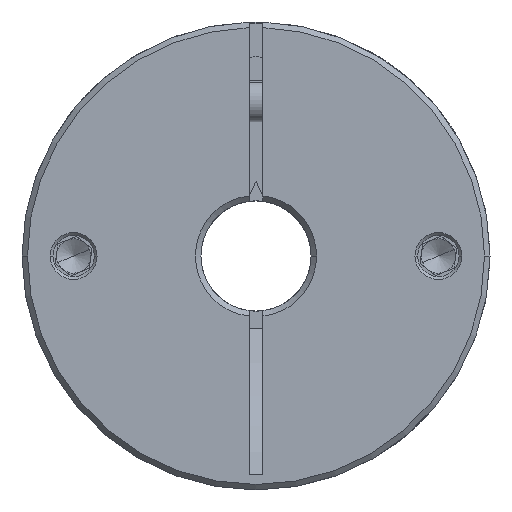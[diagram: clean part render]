
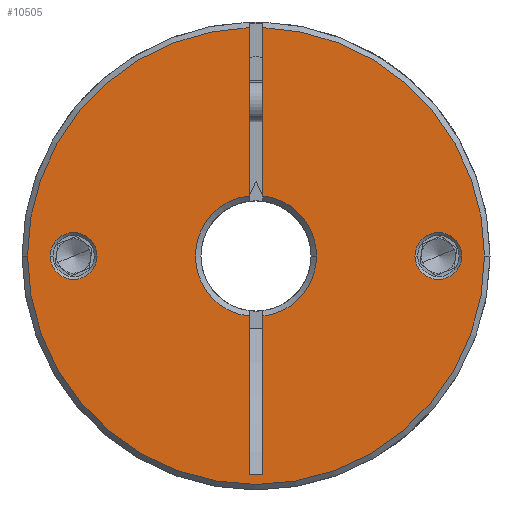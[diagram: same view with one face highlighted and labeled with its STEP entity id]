
A CAD part, front view. The second image highlights one B-rep face of the part: STEP entity #10505.
In plain terms, the highlighted planar face has unit normal (0, -1, 0).
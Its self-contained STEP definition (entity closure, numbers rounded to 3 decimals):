
#14 = AXIS2_PLACEMENT_3D ( 'NONE', #12225, #5910, #13285 ) ;
#80 = CARTESIAN_POINT ( 'NONE',  ( -1.735, -47.045, 59.257 ) ) ;
#179 = ORIENTED_EDGE ( 'NONE', *, *, #10323, .T. ) ;
#305 = CIRCLE ( 'NONE', #10318, 3.4 ) ;
#339 = CARTESIAN_POINT ( 'NONE',  ( -3.735, -47.045, 101.185 ) ) ;
#369 = DIRECTION ( 'NONE',  ( 0., 1., 0. ) ) ;
#387 = CIRCLE ( 'NONE', #5090, 3.4 ) ;
#778 = ORIENTED_EDGE ( 'NONE', *, *, #12845, .T. ) ;
#816 = DIRECTION ( 'NONE',  ( 0., 1., 0. ) ) ;
#1139 = DIRECTION ( 'NONE',  ( 0., 0., -1. ) ) ;
#1265 = DIRECTION ( 'NONE',  ( 1., 0., 0. ) ) ;
#1324 = DIRECTION ( 'NONE',  ( 0., 0., -1. ) ) ;
#1339 = CARTESIAN_POINT ( 'NONE',  ( -32.635, -47.045, 68. ) ) ;
#1504 = ORIENTED_EDGE ( 'NONE', *, *, #1598, .T. ) ;
#1598 = EDGE_CURVE ( 'NONE', #8237, #1993, #305, .T. ) ;
#1675 = ORIENTED_EDGE ( 'NONE', *, *, #4416, .T. ) ;
#1677 = EDGE_CURVE ( 'NONE', #11740, #6141, #4381, .T. ) ;
#1691 = AXIS2_PLACEMENT_3D ( 'NONE', #4876, #6055, #12374 ) ;
#1759 = CARTESIAN_POINT ( 'NONE',  ( -25.835, -47.045, 68. ) ) ;
#1760 = VECTOR ( 'NONE', #1324, 1000. ) ;
#1956 = VERTEX_POINT ( 'NONE', #1339 ) ;
#1993 = VERTEX_POINT ( 'NONE', #7713 ) ;
#2122 = DIRECTION ( 'NONE',  ( 1., 0., 0. ) ) ;
#2148 = VERTEX_POINT ( 'NONE', #3791 ) ;
#2162 = DIRECTION ( 'NONE',  ( 0., 1., 0. ) ) ;
#2203 = EDGE_CURVE ( 'NONE', #3881, #10103, #3032, .T. ) ;
#2260 = CARTESIAN_POINT ( 'NONE',  ( -1.735, -47.045, 36.279 ) ) ;
#2347 = LINE ( 'NONE', #9670, #8931 ) ;
#2429 = FACE_BOUND ( 'NONE', #4662, .T. ) ;
#2606 = ORIENTED_EDGE ( 'NONE', *, *, #7503, .T. ) ;
#2659 = ORIENTED_EDGE ( 'NONE', *, *, #12879, .T. ) ;
#2715 = CARTESIAN_POINT ( 'NONE',  ( -29.235, -47.045, 68. ) ) ;
#2909 = FACE_BOUND ( 'NONE', #5673, .T. ) ;
#2938 = CARTESIAN_POINT ( 'NONE',  ( 27.165, -47.045, 68. ) ) ;
#2941 = DIRECTION ( 'NONE',  ( 1., 0., 0. ) ) ;
#3032 = LINE ( 'NONE', #8317, #10956 ) ;
#3039 = CARTESIAN_POINT ( 'NONE',  ( -2.735, -47.045, 68. ) ) ;
#3065 = AXIS2_PLACEMENT_3D ( 'NONE', #9294, #12195, #1265 ) ;
#3320 = CARTESIAN_POINT ( 'NONE',  ( -1.735, -47.045, 68. ) ) ;
#3791 = CARTESIAN_POINT ( 'NONE',  ( -3.735, -47.045, 59.257 ) ) ;
#3881 = VERTEX_POINT ( 'NONE', #339 ) ;
#4131 = CIRCLE ( 'NONE', #10060, 8.8 ) ;
#4133 = ORIENTED_EDGE ( 'NONE', *, *, #13395, .T. ) ;
#4236 = VERTEX_POINT ( 'NONE', #10428 ) ;
#4381 = LINE ( 'NONE', #5569, #1760 ) ;
#4416 = EDGE_CURVE ( 'NONE', #6141, #6952, #12889, .T. ) ;
#4474 = VERTEX_POINT ( 'NONE', #11555 ) ;
#4662 = EDGE_LOOP ( 'NONE', ( #1504, #11595 ) ) ;
#4787 = DIRECTION ( 'NONE',  ( 0., 1., 0. ) ) ;
#4876 = CARTESIAN_POINT ( 'NONE',  ( -29.235, -47.045, 68. ) ) ;
#4899 = VERTEX_POINT ( 'NONE', #6518 ) ;
#4935 = EDGE_CURVE ( 'NONE', #2148, #6952, #2347, .T. ) ;
#5090 = AXIS2_PLACEMENT_3D ( 'NONE', #11051, #4787, #6879 ) ;
#5178 = DIRECTION ( 'NONE',  ( 0., 1., 0. ) ) ;
#5289 = LINE ( 'NONE', #3320, #7237 ) ;
#5423 = ORIENTED_EDGE ( 'NONE', *, *, #10250, .T. ) ;
#5432 = ORIENTED_EDGE ( 'NONE', *, *, #5657, .T. ) ;
#5492 = CARTESIAN_POINT ( 'NONE',  ( -2.735, -47.045, 68. ) ) ;
#5569 = CARTESIAN_POINT ( 'NONE',  ( -1.735, -47.045, 68. ) ) ;
#5586 = EDGE_CURVE ( 'NONE', #8063, #1956, #13530, .T. ) ;
#5657 = EDGE_CURVE ( 'NONE', #2148, #10103, #11552, .T. ) ;
#5673 = EDGE_LOOP ( 'NONE', ( #11783, #4133 ) ) ;
#5725 = ORIENTED_EDGE ( 'NONE', *, *, #4935, .F. ) ;
#5835 = DIRECTION ( 'NONE',  ( 0., 1., 0. ) ) ;
#5910 = DIRECTION ( 'NONE',  ( 0., -1., 0. ) ) ;
#5951 = DIRECTION ( 'NONE',  ( 0., -1., 0. ) ) ;
#6055 = DIRECTION ( 'NONE',  ( 0., 1., 0. ) ) ;
#6141 = VERTEX_POINT ( 'NONE', #2260 ) ;
#6162 = AXIS2_PLACEMENT_3D ( 'NONE', #9273, #816, #2941 ) ;
#6215 = DIRECTION ( 'NONE',  ( 1., 0., 0. ) ) ;
#6271 = AXIS2_PLACEMENT_3D ( 'NONE', #11501, #5178, #6215 ) ;
#6287 = DIRECTION ( 'NONE',  ( 0., -1., 0. ) ) ;
#6518 = CARTESIAN_POINT ( 'NONE',  ( -1.735, -47.045, 76.743 ) ) ;
#6618 = EDGE_CURVE ( 'NONE', #1993, #8237, #387, .T. ) ;
#6879 = DIRECTION ( 'NONE',  ( 1., 0., 0. ) ) ;
#6952 = VERTEX_POINT ( 'NONE', #9612 ) ;
#7237 = VECTOR ( 'NONE', #10702, 1000. ) ;
#7289 = EDGE_LOOP ( 'NONE', ( #12422, #11382, #5423, #179, #2659, #778, #2606, #11180, #1675, #5725, #5432 ) ) ;
#7320 = PLANE ( 'NONE',  #12282 ) ;
#7341 = DIRECTION ( 'NONE',  ( 1., 0., 0. ) ) ;
#7503 = EDGE_CURVE ( 'NONE', #4474, #11740, #4131, .T. ) ;
#7616 = AXIS2_PLACEMENT_3D ( 'NONE', #2715, #5835, #10149 ) ;
#7713 = CARTESIAN_POINT ( 'NONE',  ( 20.365, -47.045, 68. ) ) ;
#8063 = VERTEX_POINT ( 'NONE', #1759 ) ;
#8237 = VERTEX_POINT ( 'NONE', #2938 ) ;
#8306 = CIRCLE ( 'NONE', #6271, 8.8 ) ;
#8317 = CARTESIAN_POINT ( 'NONE',  ( -3.735, -47.045, 68. ) ) ;
#8360 = CARTESIAN_POINT ( 'NONE',  ( 23.765, -47.045, 68. ) ) ;
#8556 = AXIS2_PLACEMENT_3D ( 'NONE', #12448, #5951, #7341 ) ;
#8931 = VECTOR ( 'NONE', #1139, 1000. ) ;
#9078 = CARTESIAN_POINT ( 'NONE',  ( -1.735, -47.045, 101.185 ) ) ;
#9273 = CARTESIAN_POINT ( 'NONE',  ( -2.735, -47.045, 68. ) ) ;
#9294 = CARTESIAN_POINT ( 'NONE',  ( -2.735, -47.045, 68. ) ) ;
#9604 = VECTOR ( 'NONE', #13438, 1000. ) ;
#9612 = CARTESIAN_POINT ( 'NONE',  ( -3.735, -47.045, 36.279 ) ) ;
#9670 = CARTESIAN_POINT ( 'NONE',  ( -3.735, -47.045, 68. ) ) ;
#9777 = DIRECTION ( 'NONE',  ( 1., 0., 0. ) ) ;
#9815 = EDGE_CURVE ( 'NONE', #3881, #4236, #11150, .T. ) ;
#10027 = CARTESIAN_POINT ( 'NONE',  ( -3.735, -47.045, 76.743 ) ) ;
#10031 = CARTESIAN_POINT ( 'NONE',  ( -3.735, -47.045, 36.279 ) ) ;
#10060 = AXIS2_PLACEMENT_3D ( 'NONE', #5492, #369, #9777 ) ;
#10103 = VERTEX_POINT ( 'NONE', #10027 ) ;
#10149 = DIRECTION ( 'NONE',  ( 1., 0., 0. ) ) ;
#10250 = EDGE_CURVE ( 'NONE', #4236, #11843, #11153, .T. ) ;
#10318 = AXIS2_PLACEMENT_3D ( 'NONE', #8360, #2162, #2122 ) ;
#10323 = EDGE_CURVE ( 'NONE', #11843, #11485, #10829, .T. ) ;
#10329 = DIRECTION ( 'NONE',  ( 1., 0., 0. ) ) ;
#10428 = CARTESIAN_POINT ( 'NONE',  ( -35.935, -47.045, 68. ) ) ;
#10505 = ADVANCED_FACE ( 'NONE', ( #2429, #2909, #11499 ), #7320, .T. ) ;
#10702 = DIRECTION ( 'NONE',  ( 0., 0., -1. ) ) ;
#10829 = CIRCLE ( 'NONE', #8556, 33.2 ) ;
#10956 = VECTOR ( 'NONE', #12401, 1000. ) ;
#11051 = CARTESIAN_POINT ( 'NONE',  ( 23.765, -47.045, 68. ) ) ;
#11150 = CIRCLE ( 'NONE', #14, 33.2 ) ;
#11153 = CIRCLE ( 'NONE', #3065, 33.2 ) ;
#11180 = ORIENTED_EDGE ( 'NONE', *, *, #1677, .T. ) ;
#11382 = ORIENTED_EDGE ( 'NONE', *, *, #9815, .T. ) ;
#11485 = VERTEX_POINT ( 'NONE', #9078 ) ;
#11499 = FACE_OUTER_BOUND ( 'NONE', #7289, .T. ) ;
#11501 = CARTESIAN_POINT ( 'NONE',  ( -2.735, -47.045, 68. ) ) ;
#11552 = CIRCLE ( 'NONE', #6162, 8.8 ) ;
#11555 = CARTESIAN_POINT ( 'NONE',  ( 6.065, -47.045, 68. ) ) ;
#11595 = ORIENTED_EDGE ( 'NONE', *, *, #6618, .T. ) ;
#11740 = VERTEX_POINT ( 'NONE', #80 ) ;
#11783 = ORIENTED_EDGE ( 'NONE', *, *, #5586, .T. ) ;
#11795 = CARTESIAN_POINT ( 'NONE',  ( 30.465, -47.045, 68. ) ) ;
#11843 = VERTEX_POINT ( 'NONE', #11795 ) ;
#12195 = DIRECTION ( 'NONE',  ( 0., -1., 0. ) ) ;
#12225 = CARTESIAN_POINT ( 'NONE',  ( -2.735, -47.045, 68. ) ) ;
#12282 = AXIS2_PLACEMENT_3D ( 'NONE', #3039, #6287, #10329 ) ;
#12374 = DIRECTION ( 'NONE',  ( 1., 0., 0. ) ) ;
#12401 = DIRECTION ( 'NONE',  ( 0., 0., -1. ) ) ;
#12422 = ORIENTED_EDGE ( 'NONE', *, *, #2203, .F. ) ;
#12441 = CIRCLE ( 'NONE', #7616, 3.4 ) ;
#12448 = CARTESIAN_POINT ( 'NONE',  ( -2.735, -47.045, 68. ) ) ;
#12845 = EDGE_CURVE ( 'NONE', #4899, #4474, #8306, .T. ) ;
#12879 = EDGE_CURVE ( 'NONE', #11485, #4899, #5289, .T. ) ;
#12889 = LINE ( 'NONE', #10031, #9604 ) ;
#13285 = DIRECTION ( 'NONE',  ( 1., 0., 0. ) ) ;
#13395 = EDGE_CURVE ( 'NONE', #1956, #8063, #12441, .T. ) ;
#13438 = DIRECTION ( 'NONE',  ( -1., 0., 0. ) ) ;
#13530 = CIRCLE ( 'NONE', #1691, 3.4 ) ;
